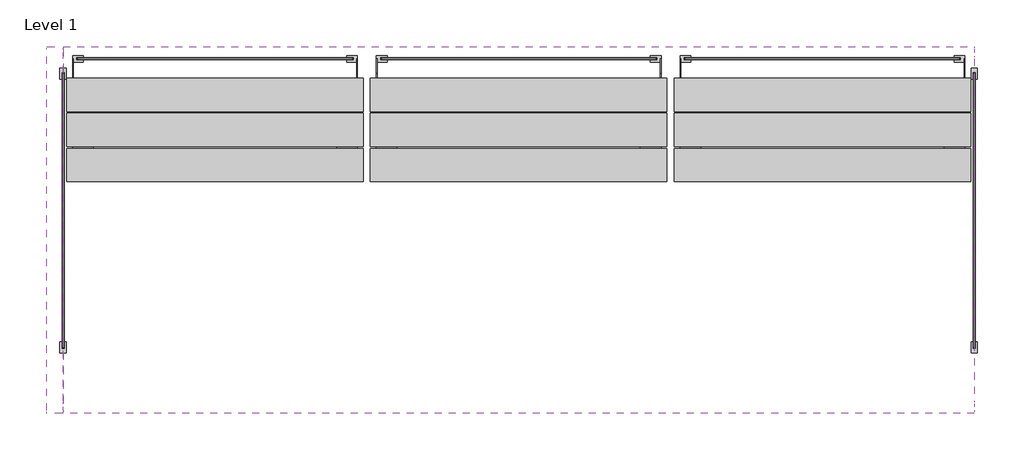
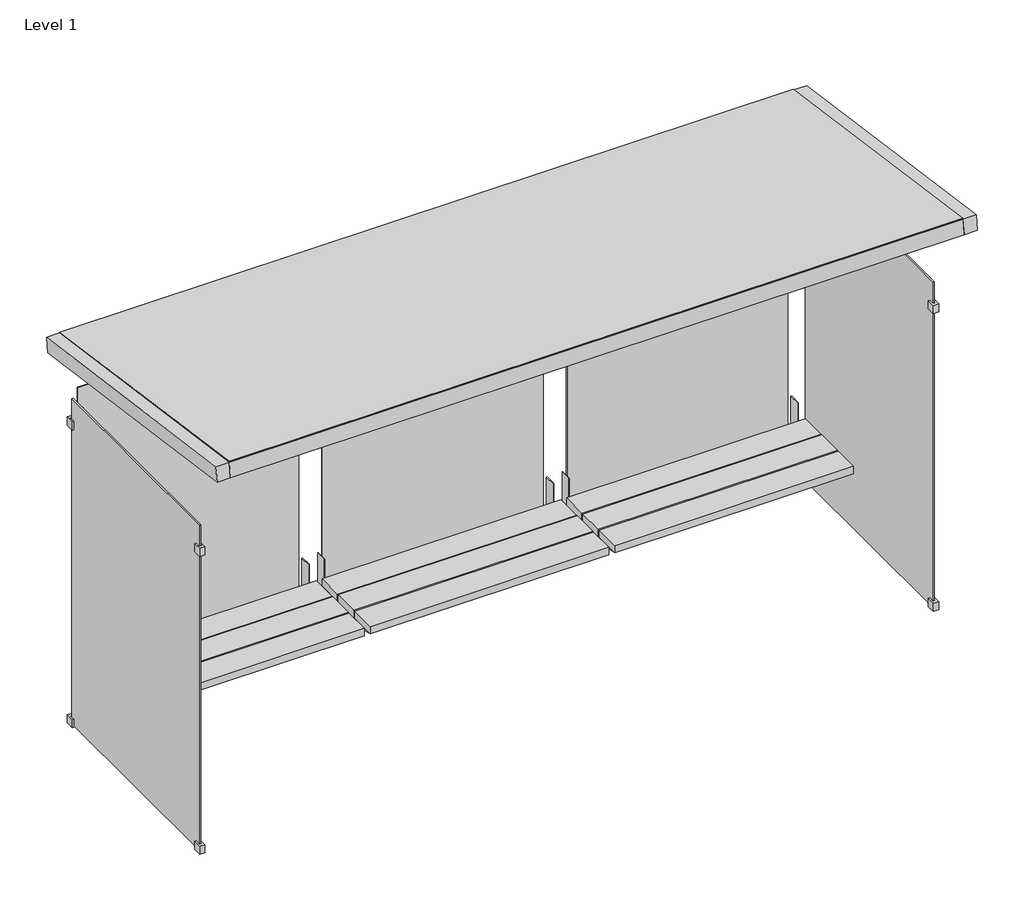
# One storey: 10 proxies.
"""IFC4 building model written with IfcOpenShell, lengths in millimetres."""

from ifc_helpers import new_model, si_unit, origin, place, context, project, spatial, transform, mapped, element, save
from components import proxy_3_modules_d1262f84, proxy_3840_485bb6b7, bench_bench_582c90d4, wall_elements_regular_glass_d32f1256

model = new_model("IFC4")

# Units and contexts
model_context = context("Model", 3, world=origin())
ifc_project = project(units=[si_unit("LENGTHUNIT", "METRE", prefix="MILLI")], contexts=[model_context])

# Site, building, storey
site = spatial("IfcSite", under=ifc_project)
building = spatial("IfcBuilding", under=site)
storey = spatial("IfcBuildingStorey", under=building, Name="Level 1", Elevation=0.0)

# Proxies
placement = place(None, origin())
proxy_3_modules_shape = proxy_3_modules_d1262f84(model_context)
element("IfcBuildingElementProxy", 1, Name="ViVa Roof : 3 Modules", ObjectType="ViVa Roof : 3 Modules", at=placement, inside=storey, context=model_context, shape_type="MappedRepresentation", body=[
    mapped(proxy_3_modules_shape, transform((-12611.628023, 739.5851864, 2164.0000033), x_axis=(1.0, 0.0, 0.0), y_axis=(0.0, 1.0, 0.0), z_axis=(0.0, 0.0, 1.0))),
])
proxy_3840_shape = proxy_3840_485bb6b7(model_context)
element("IfcBuildingElementProxy", 2, Name="ViVa Roof Closure : 3840", ObjectType="ViVa Roof Closure : 3840", at=placement, inside=storey, context=model_context, shape_type="MappedRepresentation", body=[
    mapped(proxy_3840_shape, transform((-12611.628023, 739.5851864, 2164.0000033), x_axis=(1.0, 0.0, 0.0), y_axis=(0.0, 1.0, 0.0), z_axis=(0.0, 0.0, 1.0))),
])
bench_bench_shape = bench_bench_582c90d4(model_context)
element("IfcBuildingElementProxy", 3, Name="Bench : Bench", ObjectType="Bench : Bench", at=placement, inside=storey, context=model_context, shape_type="MappedRepresentation", body=[
    mapped(bench_bench_shape, transform((-11971.6280229, 699.5851863, 300.0000005), x_axis=(1.0, 0.0, 0.0), y_axis=(0.0, 1.0, 0.0), z_axis=(0.0, 0.0, 1.0))),
])
element("IfcBuildingElementProxy", 4, Name="Bench : Bench", ObjectType="Bench : Bench", at=placement, inside=storey, context=model_context, shape_type="MappedRepresentation", body=[
    mapped(bench_bench_shape, transform((-10691.628021, 699.5851863, 300.0000005), x_axis=(1.0, 0.0, 0.0), y_axis=(0.0, 1.0, 0.0), z_axis=(0.0, 0.0, 1.0))),
])
element("IfcBuildingElementProxy", 5, Name="Bench : Bench", ObjectType="Bench : Bench", at=placement, inside=storey, context=model_context, shape_type="MappedRepresentation", body=[
    mapped(bench_bench_shape, transform((-9411.628019, 699.5851863, 300.0000005), x_axis=(1.0, 0.0, 0.0), y_axis=(0.0, 1.0, 0.0), z_axis=(0.0, 0.0, 1.0))),
])
wall_elements_regular_glass_shape = wall_elements_regular_glass_d32f1256(model_context)
element("IfcBuildingElementProxy", 6, Name="Wall elements : Regular glass", ObjectType="Wall elements : Regular glass", at=placement, inside=storey, context=model_context, shape_type="MappedRepresentation", body=[
    mapped(wall_elements_regular_glass_shape, transform((-12611.628023, 659.5851862, 0.0), x_axis=(1.019615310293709e-06, -0.9999999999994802, 0.0), y_axis=(0.9999999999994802, 1.019615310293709e-06, 0.0), z_axis=(0.0, 0.0, 1.0))),
])
element("IfcBuildingElementProxy", 7, Name="Wall elements : Regular glass", ObjectType="Wall elements : Regular glass", at=placement, inside=storey, context=model_context, shape_type="MappedRepresentation", body=[
    mapped(wall_elements_regular_glass_shape, transform((-12571.6280229, 699.5851863, 0.0), x_axis=(1.0, 0.0, 0.0), y_axis=(0.0, 1.0, 0.0), z_axis=(0.0, 0.0, 1.0))),
])
element("IfcBuildingElementProxy", 8, Name="Wall elements : Regular glass", ObjectType="Wall elements : Regular glass", at=placement, inside=storey, context=model_context, shape_type="MappedRepresentation", body=[
    mapped(wall_elements_regular_glass_shape, transform((-11291.628021, 699.5851863, 0.0), x_axis=(1.0, 0.0, 0.0), y_axis=(0.0, 1.0, 0.0), z_axis=(0.0, 0.0, 1.0))),
])
element("IfcBuildingElementProxy", 9, Name="Wall elements : Regular glass", ObjectType="Wall elements : Regular glass", at=placement, inside=storey, context=model_context, shape_type="MappedRepresentation", body=[
    mapped(wall_elements_regular_glass_shape, transform((-10011.628019, 699.5851863, 0.0), x_axis=(1.0, 0.0, 0.0), y_axis=(0.0, 1.0, 0.0), z_axis=(0.0, 0.0, 1.0))),
])
element("IfcBuildingElementProxy", 10, Name="Wall elements : Regular glass", ObjectType="Wall elements : Regular glass", at=placement, inside=storey, context=model_context, shape_type="MappedRepresentation", body=[
    mapped(wall_elements_regular_glass_shape, transform((-8771.6280171, 659.5851862, 0.0), x_axis=(1.019615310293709e-06, -0.9999999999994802, 0.0), y_axis=(0.9999999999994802, 1.019615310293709e-06, 0.0), z_axis=(0.0, 0.0, 1.0))),
])

save(model, "model.ifc")
